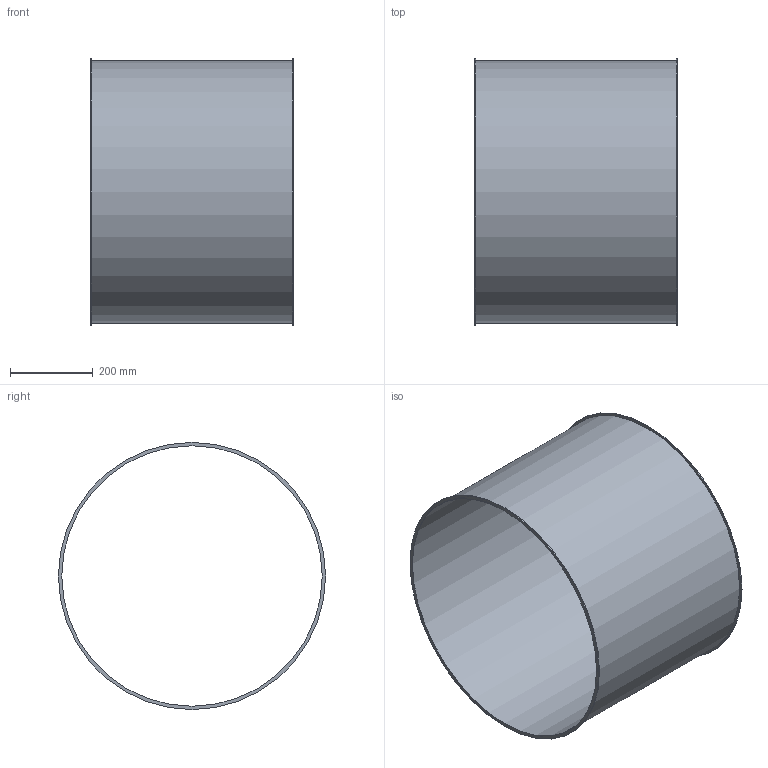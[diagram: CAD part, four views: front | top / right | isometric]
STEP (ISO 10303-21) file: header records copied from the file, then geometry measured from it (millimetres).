
FILE_DESCRIPTION((''),'2;1');
FILE_NAME('U:\Wolfgang\Marcel-3D\fertig\Kapitel 1\6321003.stp','2010-05-31T12:40:08',('TK2'),(''),'Autodesk Inventor 2010','Autodesk Inventor 2010','');
FILE_SCHEMA(('AUTOMOTIVE_DESIGN { 1 0 10303 214 1 1 1 1 }'));
Length unit declared in the file: millimetre
Products named in the file (1): 6321003
Bounding box: 488 x 644 x 644 mm (x, y, z)
Volume: 1979806.6 mm3; surface area: 1987874.2 mm2
Topology: 1 solids, 1 shells, 8 faces, 12 edges, 8 vertices
Faces by surface type: cylinder 4, plane 4
Full cylindrical faces by diameter (mm): 628 x1, 632 x1, 644 x2
Entity records: 194 total; most frequent: DIRECTION 34, CARTESIAN_POINT 25, AXIS2_PLACEMENT_3D 17, ORIENTED_EDGE 16, EDGE_LOOP 16, VERTEX_POINT 8, CIRCLE 8, EDGE_CURVE 8
